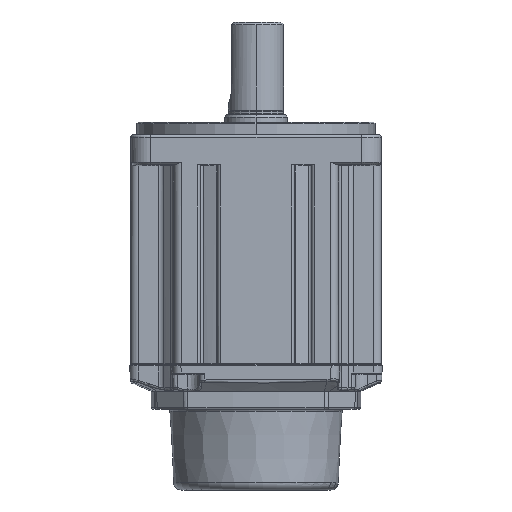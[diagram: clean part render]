
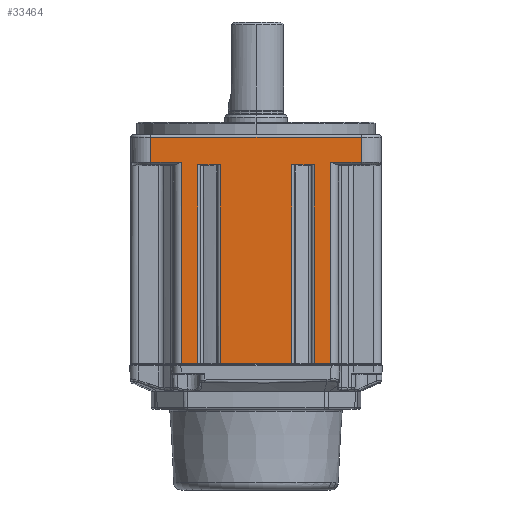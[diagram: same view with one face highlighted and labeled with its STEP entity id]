
A CAD part, front view. The second image highlights one B-rep face of the part: STEP entity #33464.
In plain terms, the highlighted planar face has unit normal (0, -1, 0).
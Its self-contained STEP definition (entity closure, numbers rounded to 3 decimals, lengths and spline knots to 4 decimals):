
#9240=DIRECTION('',(-1.,0.,0.));
#9241=VECTOR('',#9240,0.4822);
#9242=CARTESIAN_POINT('',(1.6535,-1.9685,1.9796));
#9243=LINE('',#9242,#9241);
#9244=DIRECTION('',(-1.,0.,0.));
#9245=VECTOR('',#9244,0.254);
#9246=CARTESIAN_POINT('',(1.1713,-1.9685,
-1.185));
#9247=LINE('',#9246,#9245);
#9248=DIRECTION('',(0.,0.,-1.));
#9249=VECTOR('',#9248,3.126);
#9250=CARTESIAN_POINT('',(0.9173,-1.9685,
1.9409));
#9251=LINE('',#9250,#9249);
#9252=DIRECTION('',(0.,0.,1.));
#9253=VECTOR('',#9252,3.126);
#9254=CARTESIAN_POINT('',(0.5591,-1.9685,
-1.185));
#9255=LINE('',#9254,#9253);
#9256=DIRECTION('',(-1.,0.,0.));
#9257=VECTOR('',#9256,1.1181);
#9258=CARTESIAN_POINT('',(0.5591,-1.9685,
-1.185));
#9259=LINE('',#9258,#9257);
#9260=DIRECTION('',(0.,0.,-1.));
#9261=VECTOR('',#9260,3.126);
#9262=CARTESIAN_POINT('',(-0.5591,-1.9685,
1.9409));
#9263=LINE('',#9262,#9261);
#9264=DIRECTION('',(0.,0.,1.));
#9265=VECTOR('',#9264,3.126);
#9266=CARTESIAN_POINT('',(-0.9173,-1.9685,
-1.185));
#9267=LINE('',#9266,#9265);
#9268=DIRECTION('',(-1.,0.,0.));
#9269=VECTOR('',#9268,0.254);
#9270=CARTESIAN_POINT('',(-0.9173,-1.9685,
-1.185));
#9271=LINE('',#9270,#9269);
#9272=DIRECTION('',(-1.,0.,0.));
#9273=VECTOR('',#9272,0.4822);
#9274=CARTESIAN_POINT('',(-1.1713,-1.9685,
1.9796));
#9275=LINE('',#9274,#9273);
#9276=DIRECTION('',(0.,0.,-1.));
#9277=VECTOR('',#9276,0.3944);
#9278=CARTESIAN_POINT('',(-1.6535,-1.9685,
2.374));
#9279=LINE('',#9278,#9277);
#9280=DIRECTION('',(1.,0.,0.));
#9281=VECTOR('',#9280,3.3071);
#9282=CARTESIAN_POINT('',(-1.6535,-1.9685,
2.374));
#9283=LINE('',#9282,#9281);
#9284=DIRECTION('',(0.,0.,1.));
#9285=VECTOR('',#9284,3.1647);
#9286=CARTESIAN_POINT('',(1.1713,-1.9685,
-1.185));
#9287=LINE('',#9286,#9285);
#9363=DIRECTION('',(1.,0.,0.));
#9364=VECTOR('',#9363,0.3583);
#9365=CARTESIAN_POINT('',(0.5591,-1.9685,
1.9409));
#9366=LINE('',#9365,#9364);
#9446=DIRECTION('',(1.,0.,0.));
#9447=VECTOR('',#9446,0.3583);
#9448=CARTESIAN_POINT('',(-0.9173,-1.9685,
1.9409));
#9449=LINE('',#9448,#9447);
#9510=DIRECTION('',(0.,0.,-1.));
#9511=VECTOR('',#9510,3.1647);
#9512=CARTESIAN_POINT('',(-1.1713,-1.9685,
1.9796));
#9513=LINE('',#9512,#9511);
#9604=CARTESIAN_POINT('',(-1.6535,-1.9685,
1.9796));
#9826=DIRECTION('',(0.,0.,-1.));
#9827=VECTOR('',#9826,0.3944);
#9828=CARTESIAN_POINT('',(1.6535,-1.9685,2.374));
#9829=LINE('',#9828,#9827);
#15709=CARTESIAN_POINT('',(-1.6535,-1.9685,
2.374));
#15710=VERTEX_POINT('',#15709);
#15713=CARTESIAN_POINT('',(1.6535,-1.9685,
2.374));
#15714=VERTEX_POINT('',#15713);
#15905=CARTESIAN_POINT('',(-0.9173,-1.9685,
-1.185));
#15907=VERTEX_POINT('',#15905);
#15908=CARTESIAN_POINT('',(-0.5591,-1.9685,
-1.185));
#15910=VERTEX_POINT('',#15908);
#15913=CARTESIAN_POINT('',(0.5591,-1.9685,
-1.185));
#15915=VERTEX_POINT('',#15913);
#15916=CARTESIAN_POINT('',(0.9173,-1.9685,
-1.185));
#15918=VERTEX_POINT('',#15916);
#15924=CARTESIAN_POINT('',(-1.1713,-1.9685,
-1.185));
#15926=VERTEX_POINT('',#15924);
#15986=CARTESIAN_POINT('',(1.1713,-1.9685,
-1.185));
#15987=VERTEX_POINT('',#15986);
#16038=CARTESIAN_POINT('',(1.6535,-1.9685,
1.9796));
#16039=CARTESIAN_POINT('',(1.1713,-1.9685,
1.9796));
#16040=VERTEX_POINT('',#16038);
#16041=VERTEX_POINT('',#16039);
#16061=VERTEX_POINT('',#9604);
#16064=CARTESIAN_POINT('',(-1.1713,-1.9685,
1.9796));
#16065=VERTEX_POINT('',#16064);
#16134=CARTESIAN_POINT('',(-0.9173,-1.9685,
1.9409));
#16135=VERTEX_POINT('',#16134);
#16138=CARTESIAN_POINT('',(-0.5591,-1.9685,
1.9409));
#16139=VERTEX_POINT('',#16138);
#16142=CARTESIAN_POINT('',(0.5591,-1.9685,
1.9409));
#16143=VERTEX_POINT('',#16142);
#16146=CARTESIAN_POINT('',(0.9173,-1.9685,
1.9409));
#16147=VERTEX_POINT('',#16146);
#33429=CARTESIAN_POINT('',(-1.6535,-1.9685,
2.4134));
#33430=DIRECTION('',(0.,-1.,0.));
#33431=DIRECTION('',(1.,0.,0.));
#33432=AXIS2_PLACEMENT_3D('',#33429,#33430,#33431);
#33433=PLANE('',#33432);
#33434=ORIENTED_EDGE('',*,*,#33407,.T.);
#33436=ORIENTED_EDGE('',*,*,#33435,.F.);
#33437=ORIENTED_EDGE('',*,*,#32007,.T.);
#33439=ORIENTED_EDGE('',*,*,#33438,.F.);
#33441=ORIENTED_EDGE('',*,*,#33440,.F.);
#33443=ORIENTED_EDGE('',*,*,#33442,.F.);
#33444=ORIENTED_EDGE('',*,*,#31991,.T.);
#33446=ORIENTED_EDGE('',*,*,#33445,.F.);
#33448=ORIENTED_EDGE('',*,*,#33447,.F.);
#33450=ORIENTED_EDGE('',*,*,#33449,.F.);
#33451=ORIENTED_EDGE('',*,*,#31975,.T.);
#33453=ORIENTED_EDGE('',*,*,#33452,.F.);
#33455=ORIENTED_EDGE('',*,*,#33454,.T.);
#33457=ORIENTED_EDGE('',*,*,#33456,.F.);
#33459=ORIENTED_EDGE('',*,*,#33458,.T.);
#33461=ORIENTED_EDGE('',*,*,#33460,.T.);
#33462=EDGE_LOOP('',(#33434,#33436,#33437,#33439,#33441,#33443,#33444,#33446,
#33448,#33450,#33451,#33453,#33455,#33457,#33459,#33461));
#33463=FACE_OUTER_BOUND('',#33462,.F.);
#31975=EDGE_CURVE('',#15907,#15926,#9271,.T.);
#31991=EDGE_CURVE('',#15915,#15910,#9259,.T.);
#32007=EDGE_CURVE('',#15987,#15918,#9247,.T.);
#33407=EDGE_CURVE('',#16040,#16041,#9243,.T.);
#33435=EDGE_CURVE('',#15987,#16041,#9287,.T.);
#33438=EDGE_CURVE('',#16147,#15918,#9251,.T.);
#33440=EDGE_CURVE('',#16143,#16147,#9366,.T.);
#33442=EDGE_CURVE('',#15915,#16143,#9255,.T.);
#33445=EDGE_CURVE('',#16139,#15910,#9263,.T.);
#33447=EDGE_CURVE('',#16135,#16139,#9449,.T.);
#33449=EDGE_CURVE('',#15907,#16135,#9267,.T.);
#33452=EDGE_CURVE('',#16065,#15926,#9513,.T.);
#33454=EDGE_CURVE('',#16065,#16061,#9275,.T.);
#33456=EDGE_CURVE('',#15710,#16061,#9279,.T.);
#33458=EDGE_CURVE('',#15710,#15714,#9283,.T.);
#33460=EDGE_CURVE('',#15714,#16040,#9829,.T.);
#33464=ADVANCED_FACE('',(#33463),#33433,.T.);
